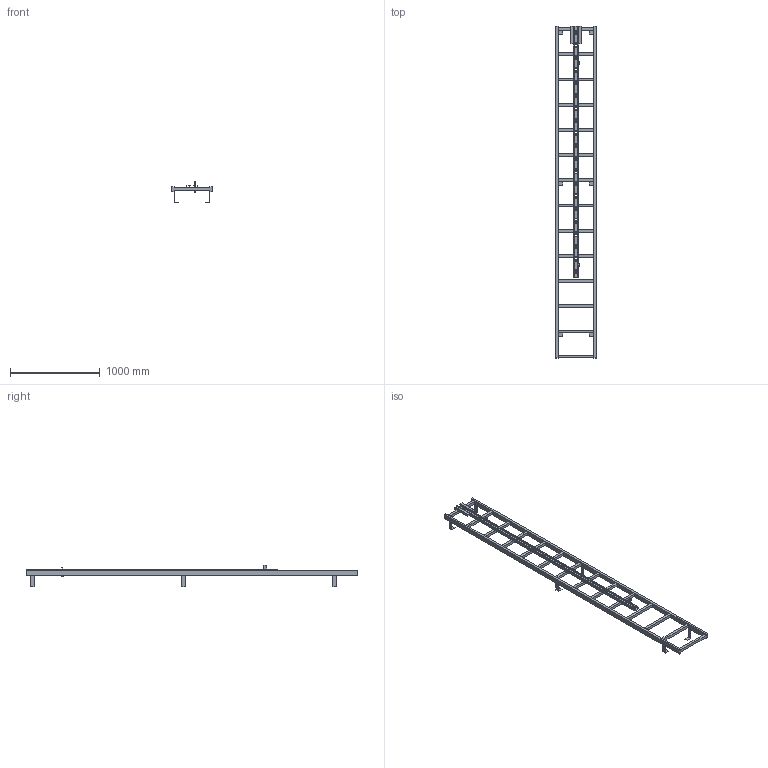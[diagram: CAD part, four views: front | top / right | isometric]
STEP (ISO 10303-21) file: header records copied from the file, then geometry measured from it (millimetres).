
FILE_DESCRIPTION((''),'2;1');
FILE_NAME('52332558','2024-12-05T08:23:13',('wep'),('HUBER SE'),'CREO PARAMETRIC BY PTC INC, 2022162','CREO PARAMETRIC BY PTC INC, 2022162','');
FILE_SCHEMA(('AUTOMOTIVE_DESIGN { 1 0 10303 214 1 1 1 1 }'));
Length unit declared in the file: millimetre
Products named in the file (1): 52332558
Bounding box: 450 x 3690 x 239 mm (x, y, z)
Volume: 16088560 mm3; surface area: 2746325.7 mm2
Topology: 2 solids, 2 shells, 244 faces, 710 edges, 464 vertices
Faces by surface type: plane 244
Entity records: 8557 total; most frequent: CARTESIAN_POINT 1420, ORIENTED_EDGE 1420, DIRECTION 1198, VECTOR 710, LINE 710, EDGE_CURVE 710, VERTEX_POINT 464, EDGE_LOOP 308
